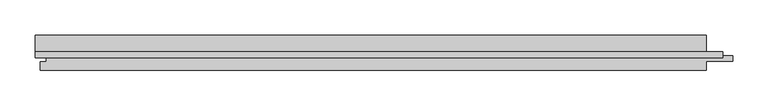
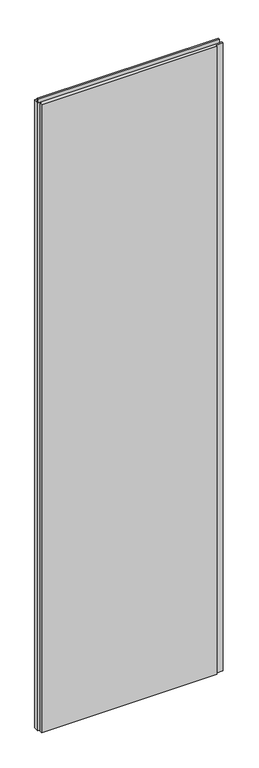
"""IFC4 building model written with IfcOpenShell, lengths in millimetres: plate geometry, Trimo_Qbiss Screen_Normal Panel-VERTICAL : HR - B."""

from ifc_helpers import new_model, si_unit, frame, origin, place, context, project, spatial, polyline, outline, extrude, source, transform, mapped, element, save


def plate_45dd23fd(model_context):
    return source(origin(), model_context, "Body", "SweptSolid", [
        extrude(outline(polyline([(466.5, 97.0), (466.5, 102.6), (487.5, 102.6), (487.5, 97.0), (466.5, 97.0)])), frame((0.0, 0.0, 12.5), z_axis=(0.0, 0.0, 1.0), x_axis=(1.0, 0.0, 0.0)), (0.0, 0.0, 1.0), 3575.0),
        extrude(outline(polyline([(-488.5, 93.9), (-488.5, 102.6), (488.5, 102.6), (488.5, 93.9), (-488.5, 93.9)])), frame((0.0, 0.0, 3590.5), z_axis=(0.0, 0.0, 1.0), x_axis=(1.0, 0.0, 0.0)), (0.0, 0.0, 1.0), 19.0),
        extrude(outline(polyline([(465.5, 97.0), (503.0, 97.0), (503.0, 89.0), (465.5, 89.0), (465.5, 76.0), (-481.5, 76.0), (-481.5, 88.0), (-473.0, 88.0), (-473.0, 98.0), (-488.5, 98.0), (-488.5, 126.0), (465.5, 126.0), (465.5, 97.0)])), frame((0.0, 0.0, 12.5), z_axis=(0.0, 0.0, 1.0), x_axis=(1.0, 0.0, 0.0)), (0.0, 0.0, 1.0), 3575.0),
    ])


if __name__ == "__main__":
    model = new_model("IFC4")
    model_context = context("Model", 3, world=origin())
    ifc_project = project(units=[si_unit("LENGTHUNIT", "METRE", prefix="MILLI")], contexts=[model_context])
    site = spatial("IfcSite", under=ifc_project)
    building = spatial("IfcBuilding", under=site)
    placement = place(None, origin())
    plate_shape = plate_45dd23fd(model_context)
    element("IfcPlate", 1, ObjectType="Trimo_Qbiss Screen_Normal Panel-VERTICAL : HR - B", at=placement, inside=building, context=model_context, shape_type="MappedRepresentation", body=[
        mapped(plate_shape, transform((0.0, 0.0, 0.0), x_axis=(1.0, 0.0, 0.0), y_axis=(0.0, 1.0, 0.0), z_axis=(0.0, 0.0, 1.0))),
    ])
    save(model, "model.ifc")
